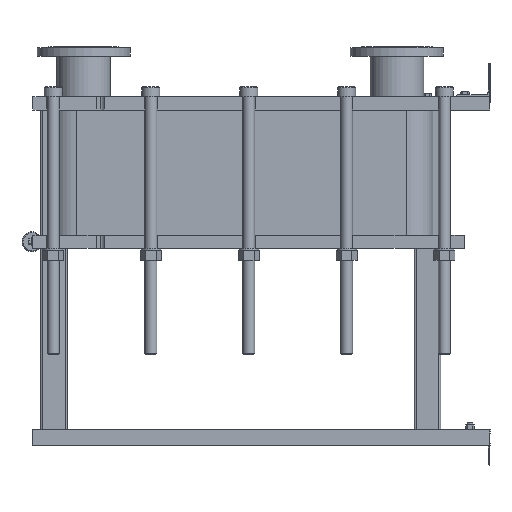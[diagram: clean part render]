
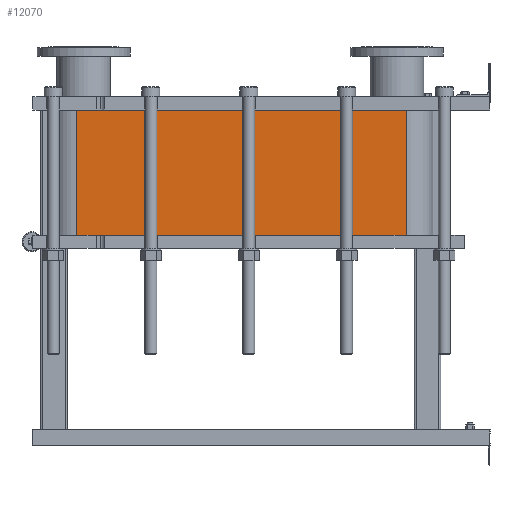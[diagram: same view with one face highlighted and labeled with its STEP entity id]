
A CAD part, left-side view. The second image highlights one B-rep face of the part: STEP entity #12070.
In plain terms, the highlighted planar face has unit normal (-1, 0, 0).
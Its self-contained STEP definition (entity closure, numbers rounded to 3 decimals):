
#1064=LINE('',#21140,#2164);
#1065=LINE('',#21144,#2165);
#1066=LINE('',#21146,#2166);
#1067=LINE('',#21147,#2167);
#2164=VECTOR('',#15790,10.);
#2165=VECTOR('',#15795,10.);
#2166=VECTOR('',#15796,10.);
#2167=VECTOR('',#15797,10.);
#3304=FACE_OUTER_BOUND('',#4091,.T.);
#4091=EDGE_LOOP('',(#9793,#9794,#9795,#9796));
#5677=VERTEX_POINT('',#21137);
#5678=VERTEX_POINT('',#21139);
#5679=VERTEX_POINT('',#21143);
#5680=VERTEX_POINT('',#21145);
#7118=EDGE_CURVE('',#5678,#5677,#1064,.T.);
#7120=EDGE_CURVE('',#5677,#5679,#1065,.T.);
#7121=EDGE_CURVE('',#5680,#5679,#1066,.T.);
#7122=EDGE_CURVE('',#5680,#5678,#1067,.T.);
#9793=ORIENTED_EDGE('',*,*,#7120,.T.);
#9794=ORIENTED_EDGE('',*,*,#7121,.F.);
#9795=ORIENTED_EDGE('',*,*,#7122,.T.);
#9796=ORIENTED_EDGE('',*,*,#7118,.T.);
#11441=PLANE('',#13191);
#12070=ADVANCED_FACE('',(#3304),#11441,.T.);
#13191=AXIS2_PLACEMENT_3D('',#21142,#15793,#15794);
#15790=DIRECTION('',(0.,0.,-1.));
#15793=DIRECTION('center_axis',(-1.,0.,0.));
#15794=DIRECTION('ref_axis',(0.,1.,0.));
#15795=DIRECTION('',(0.,-1.,0.));
#15796=DIRECTION('',(0.,0.,-1.));
#15797=DIRECTION('',(0.,1.,0.));
#21137=CARTESIAN_POINT('',(-248.152,1243.818,-376.05));
#21139=CARTESIAN_POINT('',(-248.152,1243.818,0.));
#21140=CARTESIAN_POINT('',(-248.152,1243.818,0.));
#21142=CARTESIAN_POINT('Origin',(-248.152,251.818,0.));
#21143=CARTESIAN_POINT('',(-248.152,251.818,-376.05));
#21144=CARTESIAN_POINT('',(-248.152,499.818,-376.05));
#21145=CARTESIAN_POINT('',(-248.152,251.818,0.));
#21146=CARTESIAN_POINT('',(-248.152,251.818,0.));
#21147=CARTESIAN_POINT('',(-248.152,251.818,0.));
